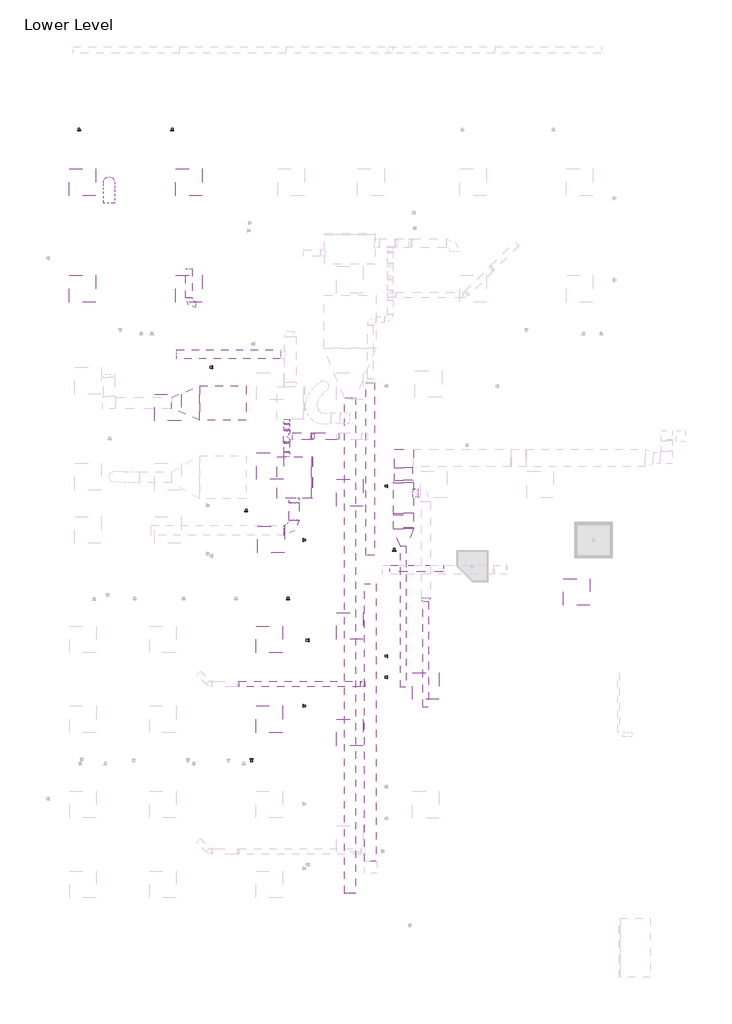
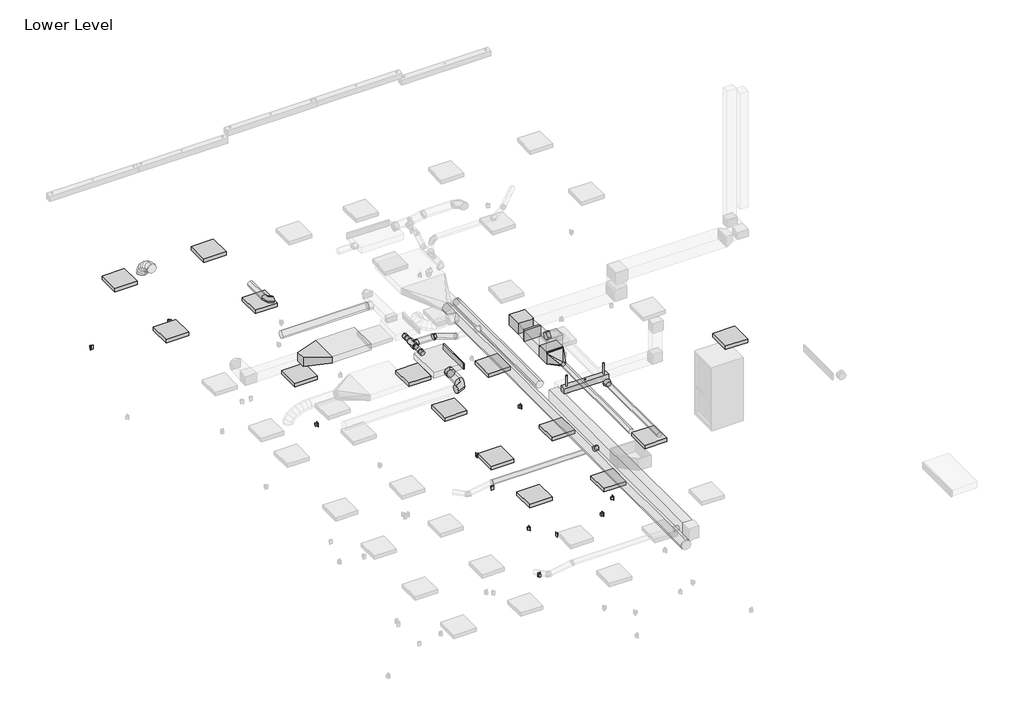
# One storey, part 2 of 4: 19 duct segments, 18 duct fittings, 15 light fixtures, 10 proxies, 5 switching devices.
"""IFC4 building model written with IfcOpenShell, lengths in millimetres."""

from ifc_helpers import new_model, si_unit, point, frame, frame_2d, origin, place, context, project, spatial, polyline, circle_curve, ellipse_curve, trimmed, segment, composite_curve, outline, extrude, transform, mapped, element, save
from ifc_brep_helpers import plane_surface, cylinder_surface, advanced_brep
from components import mechanical_equipment_142123ad, duplex_receptacle_countertop_10251bba, rectangular_elbow_mitered_standard_ae316b88, rectangular_endcap_standard_7f0f3a90, rectangular_tee_standard_c6e92247, rectangular_transition_angle_45_degree_29acac8a, rectangular_transition_angle_45_degree_acf68612, rectangular_to_round_transition_angle_45_degree_6a3e0b62, round_elbow_1_d_df495868, round_elbow_1_d_b37ad80b, round_elbow_1_d_f0624a5f, round_takeoff_standard_71c39a53, round_takeoff_standard_1127d77f, round_takeoff_standard_fb854549, round_takeoff_standard_7fe2b2d5, round_tee_standard_f7545f24, round_transition_angle_45_degree_f573c4f8, round_transition_angle_45_degree_d7d10bec, suspended_fluorescent_strip_non_hosted_strip_light_1x4_120v_4ea4ccb3, troffer_corner_insert_2x2_3lamp_e67c7f8f

model = new_model("IFC4")

# Units and contexts
model_context = context("Model", 3, world=origin())
ifc_project = project(units=[si_unit("LENGTHUNIT", "METRE", prefix="MILLI")], contexts=[model_context])

# Site, building, storey
site = spatial("IfcSite", under=ifc_project)
building = spatial("IfcBuilding", under=site)
storey = spatial("IfcBuildingStorey", under=building, Name="Lower Level", Elevation=29972.0)

# Proxies
placement = place(None, origin())
mechanical_equipment_shape = mechanical_equipment_142123ad(model_context)
element("IfcBuildingElementProxy", 1, Name="DOAS Supply to Return Connection : DOAS Supply to Return Duct Connection", ObjectType="DOAS Supply to Return Connection : DOAS Supply to Return Duct Connection", at=placement, inside=storey, context=model_context, shape_type="MappedRepresentation", body=[
    mapped(mechanical_equipment_shape, transform((-15051.4068388, 7766.5645797, 33121.6), x_axis=(0.0, -1.0000000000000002, 0.0), y_axis=(1.0000000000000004, 0.0, 0.0), z_axis=(0.0, 0.0, 1.0000000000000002))),
])
element("IfcBuildingElementProxy", 2, Name="DOAS Supply to Return Connection : DOAS Supply to Return Duct Connection", ObjectType="DOAS Supply to Return Connection : DOAS Supply to Return Duct Connection", at=placement, inside=storey, context=model_context, shape_type="MappedRepresentation", body=[
    mapped(mechanical_equipment_shape, transform((-15051.4068388, 7118.1842307, 33121.6), x_axis=(0.0, 1.0000000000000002, 0.0), y_axis=(-1.0000000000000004, 0.0, 0.0), z_axis=(0.0, 0.0, 1.0000000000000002))),
])
duplex_receptacle_countertop_shape = duplex_receptacle_countertop_10251bba(model_context)
element("IfcBuildingElementProxy", 3, Name="Duplex Receptacle : Countertop", ObjectType="Duplex Receptacle : Countertop", at=placement, inside=storey, context=model_context, shape_type="MappedRepresentation", body=[
    mapped(duplex_receptacle_countertop_shape, transform((-15857.9540331, 89.8945005, 31191.2), x_axis=(-1.0, 0.0, 0.0), y_axis=(0.0, 0.0, 1.0), z_axis=(0.0, 1.0, 0.0))),
])
element("IfcBuildingElementProxy", 4, Name="Duplex Receptacle : Countertop", ObjectType="Duplex Receptacle : Countertop", at=placement, inside=storey, context=model_context, shape_type="MappedRepresentation", body=[
    mapped(duplex_receptacle_countertop_shape, transform((-15020.6577304, 3747.4945005, 31191.2), x_axis=(1.0, 0.0, 0.0), y_axis=(0.0, 0.0, 1.0), z_axis=(0.0, -1.0, 0.0))),
])
element("IfcBuildingElementProxy", 5, Name="Duplex Receptacle : Standard", ObjectType="Duplex Receptacle : Standard", at=placement, inside=storey, context=model_context, shape_type="MappedRepresentation", body=[
    mapped(duplex_receptacle_countertop_shape, transform((-12749.8454607, 2449.6244898, 30429.2), x_axis=(0.0, 1.0, 0.0), y_axis=(0.0, 0.0, 1.0), z_axis=(1.0, 0.0, 0.0))),
])
element("IfcBuildingElementProxy", 6, Name="Duplex Receptacle : Standard", ObjectType="Duplex Receptacle : Standard", at=placement, inside=storey, context=model_context, shape_type="MappedRepresentation", body=[
    mapped(duplex_receptacle_countertop_shape, transform((-15979.1685758, 5760.4445005, 30429.2), x_axis=(1.0, 0.0, 0.0), y_axis=(0.0, 0.0, 1.0), z_axis=(0.0, -1.0, 0.0))),
])
element("IfcBuildingElementProxy", 7, Name="Duplex Receptacle : Standard", ObjectType="Duplex Receptacle : Standard", at=placement, inside=storey, context=model_context, shape_type="MappedRepresentation", body=[
    mapped(duplex_receptacle_countertop_shape, transform((-17673.0922604, 14482.1695005, 30429.2), x_axis=(1.0, 0.0, 0.0), y_axis=(0.0, 0.0, 1.0), z_axis=(0.0, -1.0, 0.0))),
])
element("IfcBuildingElementProxy", 8, Name="Duplex Receptacle : Standard", ObjectType="Duplex Receptacle : Standard", at=placement, inside=storey, context=model_context, shape_type="MappedRepresentation", body=[
    mapped(duplex_receptacle_countertop_shape, transform((-19809.9177955, 14482.1695005, 30429.2), x_axis=(1.0, 0.0, 0.0), y_axis=(0.0, 0.0, 1.0), z_axis=(0.0, -1.0, 0.0))),
])
element("IfcBuildingElementProxy", 9, Name="Duplex Receptacle : Standard", ObjectType="Duplex Receptacle : Standard", at=placement, inside=storey, context=model_context, shape_type="MappedRepresentation", body=[
    mapped(duplex_receptacle_countertop_shape, transform((-14550.0704607, 2812.7275334, 30429.2), x_axis=(0.0, 1.0, 0.0), y_axis=(0.0, 0.0, 1.0), z_axis=(1.0, 0.0, 0.0))),
])
element("IfcBuildingElementProxy", 10, Name="Duplex Receptacle : Standard", ObjectType="Duplex Receptacle : Standard", at=placement, inside=storey, context=model_context, shape_type="MappedRepresentation", body=[
    mapped(duplex_receptacle_countertop_shape, transform((-16756.6954607, 9061.6852176, 30429.2), x_axis=(0.0, 1.0, 0.0), y_axis=(0.0, 0.0, 1.0), z_axis=(1.0, 0.0, 0.0))),
])

# Duct fittings
rectangular_elbow_mitered_standard_shape = rectangular_elbow_mitered_standard_ae316b88(model_context)
element("IfcDuctFitting", 11, ObjectType="Rectangular Elbow - Mitered : Standard", at=placement, inside=storey, context=model_context, shape_type="MappedRepresentation", body=[
    mapped(rectangular_elbow_mitered_standard_shape, transform((-12379.8126806, 6984.6293332, 33121.6), x_axis=(-1.0, 0.0, 0.0), y_axis=(0.0, -1.0, 0.0), z_axis=(0.0, 0.0, 1.0))),
])
rectangular_endcap_standard_shape = rectangular_endcap_standard_7f0f3a90(model_context)
element("IfcDuctFitting", 12, ObjectType="Rectangular Endcap : Standard", at=placement, inside=storey, context=model_context, shape_type="MappedRepresentation", body=[
    mapped(rectangular_endcap_standard_shape, transform((-14487.4337032, 6541.2842307, 33121.5384965), x_axis=(1.0, 0.0, 0.0), y_axis=(0.0, 1.0, 0.0), z_axis=(0.0, 0.0, 1.0))),
])
rectangular_tee_standard_shape = rectangular_tee_standard_c6e92247(model_context)
element("IfcDuctFitting", 13, ObjectType="Rectangular Tee : Standard", at=placement, inside=storey, context=model_context, shape_type="MappedRepresentation", body=[
    mapped(rectangular_tee_standard_shape, transform((-12379.8126806, 5536.8293332, 33121.6), x_axis=(0.0, 1.0, 0.0), y_axis=(0.0, 0.0, -1.0), z_axis=(-1.0, 0.0, 0.0))),
])
rectangular_transition_angle_45_degree_shape = rectangular_transition_angle_45_degree_29acac8a(model_context)
element("IfcDuctFitting", 14, ObjectType="Rectangular Transition - Angle : 45 Degree", at=placement, inside=storey, context=model_context, shape_type="MappedRepresentation", body=[
    mapped(rectangular_transition_angle_45_degree_shape, transform((-17043.5807568, 8243.4520797, 33125.965625), x_axis=(-0.9999999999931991, 0.0, 3.6880781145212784e-06), y_axis=(0.0, -1.0000000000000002, 0.0), z_axis=(3.6880781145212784e-06, 0.0, 0.9999999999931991))),
])
rectangular_transition_angle_45_degree_2_shape = rectangular_transition_angle_45_degree_acf68612(model_context)
element("IfcDuctFitting", 15, ObjectType="Rectangular Transition - Angle : 45 Degree", at=placement, inside=storey, context=model_context, shape_type="MappedRepresentation", body=[
    mapped(rectangular_transition_angle_45_degree_2_shape, transform((-12379.8126806, 6479.8043332, 33121.6), x_axis=(0.0, -1.0, 0.0), y_axis=(1.0, 0.0, 0.0), z_axis=(0.0, 0.0, 1.0))),
])
rectangular_to_round_transition_angle_45_degree_shape = rectangular_to_round_transition_angle_45_degree_6a3e0b62(model_context)
element("IfcDuctFitting", 16, ObjectType="Rectangular to Round Transition - Angle : 45 Degree", at=placement, inside=storey, context=model_context, shape_type="MappedRepresentation", body=[
    mapped(rectangular_to_round_transition_angle_45_degree_shape, transform((-12379.8126806, 5359.0293332, 33121.6), x_axis=(0.0, -1.0, 0.0), y_axis=(0.0, 0.0, 1.0), z_axis=(-1.0, 0.0, 0.0))),
])
round_elbow_1_d_shape = round_elbow_1_d_df495868(model_context)
element("IfcDuctFitting", 17, ObjectType="Round Elbow : 1 D", at=placement, inside=storey, context=model_context, shape_type="MappedRepresentation", body=[
    mapped(round_elbow_1_d_shape, transform((-14881.1337028, 5334.9945005, 33121.6), x_axis=(1.0, 0.0, 0.0), y_axis=(0.0, 1.0, 0.0), z_axis=(0.0, 0.0, 1.0))),
])
round_elbow_1_d_2_shape = round_elbow_1_d_b37ad80b(model_context)
element("IfcDuctFitting", 18, ObjectType="Round Elbow : 1 D", at=placement, inside=storey, context=model_context, shape_type="MappedRepresentation", body=[
    mapped(round_elbow_1_d_2_shape, transform((-17291.6829607, 10498.3395797, 33324.8), x_axis=(0.0, -1.0, 0.0), y_axis=(0.9961916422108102, 0.0, -0.08719066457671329), z_axis=(0.08719066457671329, 0.0, 0.9961916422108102))),
])
round_elbow_1_d_3_shape = round_elbow_1_d_f0624a5f(model_context)
element("IfcDuctFitting", 19, ObjectType="Round Elbow : 1 D", at=placement, inside=storey, context=model_context, shape_type="MappedRepresentation", body=[
    mapped(round_elbow_1_d_3_shape, transform((-14469.5500833, 7481.5106674, 33121.6), x_axis=(1.0, 0.0, 0.0), y_axis=(0.0, 0.0, -1.0), z_axis=(0.0, 1.0, 0.0))),
])
round_takeoff_standard_shape = round_takeoff_standard_71c39a53(model_context)
element("IfcDuctFitting", 20, ObjectType="Round Takeoff : Standard", at=placement, inside=storey, context=model_context, shape_type="MappedRepresentation", body=[
    mapped(round_takeoff_standard_shape, transform((-14881.1337028, 6065.9842307, 33121.6), x_axis=(0.0, -1.0, 0.0), y_axis=(-1.0, 0.0, 0.0), z_axis=(0.0, 0.0, -1.0))),
])
round_takeoff_standard_2_shape = round_takeoff_standard_1127d77f(model_context)
element("IfcDuctFitting", 21, ObjectType="Round Takeoff : Standard", at=placement, inside=storey, context=model_context, shape_type="MappedRepresentation", body=[
    mapped(round_takeoff_standard_2_shape, transform((-12151.2126806, 6182.7195005, 33121.6), x_axis=(1.0, 0.0, 0.0), y_axis=(0.0, -1.0, 0.0), z_axis=(0.0, 0.0, -1.0))),
])
round_takeoff_standard_3_shape = round_takeoff_standard_fb854549(model_context)
element("IfcDuctFitting", 22, ObjectType="Round Takeoff : Standard", at=placement, inside=storey, context=model_context, shape_type="MappedRepresentation", body=[
    mapped(round_takeoff_standard_3_shape, transform((-15051.4068388, 7868.1645797, 33121.6), x_axis=(0.0, -1.0, 0.0), y_axis=(-1.0, 0.0, 0.0), z_axis=(0.0, 0.0, -1.0))),
])
round_takeoff_standard_4_shape = round_takeoff_standard_7fe2b2d5(model_context)
element("IfcDuctFitting", 23, ObjectType="Round Takeoff : Standard", at=placement, inside=storey, context=model_context, shape_type="MappedRepresentation", body=[
    mapped(round_takeoff_standard_4_shape, transform((-15051.4068388, 7016.5842307, 33121.6), x_axis=(0.0, 1.0, 0.0), y_axis=(1.0, 0.0, 0.0), z_axis=(0.0, 0.0, -1.0))),
])
element("IfcDuctFitting", 24, ObjectType="Round Takeoff : Standard", at=placement, inside=storey, context=model_context, shape_type="MappedRepresentation", body=[
    mapped(round_takeoff_standard_4_shape, transform((-13265.544811, 1810.3913908, 32918.4), x_axis=(-1.0, 0.0, 0.0), y_axis=(0.0, 1.0, 0.0), z_axis=(0.0, 0.0, -1.0))),
])
round_tee_standard_shape = round_tee_standard_f7545f24(model_context)
element("IfcDuctFitting", 25, ObjectType="Round Tee : Standard", at=placement, inside=storey, context=model_context, shape_type="MappedRepresentation", body=[
    mapped(round_tee_standard_shape, transform((-15051.4068388, 7481.5106674, 33121.6), x_axis=(0.0, 1.0, 0.0), y_axis=(-1.0, 0.0, 0.0), z_axis=(0.0, 0.0, 1.0))),
])
round_transition_angle_45_degree_shape = round_transition_angle_45_degree_f573c4f8(model_context)
element("IfcDuctFitting", 26, ObjectType="Round Transition - Angle : 45 Degree", at=placement, inside=storey, context=model_context, shape_type="MappedRepresentation", body=[
    mapped(round_transition_angle_45_degree_shape, transform((-15051.4068388, 7608.5106674, 33121.6), x_axis=(0.0, 1.0, 0.0), y_axis=(-1.0, 0.0, 0.0), z_axis=(0.0, 0.0, 1.0))),
])
element("IfcDuctFitting", 27, ObjectType="Round Transition - Angle : 45 Degree", at=placement, inside=storey, context=model_context, shape_type="MappedRepresentation", body=[
    mapped(round_transition_angle_45_degree_shape, transform((-15051.4068388, 7354.5106674, 33121.6), x_axis=(0.0, -1.0, 0.0), y_axis=(1.0, 0.0, 0.0), z_axis=(0.0, 0.0, 1.0))),
])
round_transition_angle_45_degree_2_shape = round_transition_angle_45_degree_d7d10bec(model_context)
element("IfcDuctFitting", 28, ObjectType="Round Transition - Angle : 45 Degree", at=placement, inside=storey, context=model_context, shape_type="MappedRepresentation", body=[
    mapped(round_transition_angle_45_degree_2_shape, transform((-11866.4513201, 3785.5010372, 33121.6), x_axis=(0.0, -1.0, 0.0), y_axis=(1.0, 0.0, 0.0), z_axis=(0.0, 0.0, 1.0))),
])

# Duct segments
element("IfcDuctSegment", 29, ObjectType="Flex - Round", at=placement, inside=storey, context=model_context, shape_type="AdvancedBrep", body=[
    advanced_brep(
    [(-19247.4829607, 12815.4520797, 33477.2), (-19120.4829607, 12815.4520797, 33350.2), (-18993.4829607, 12815.4520797, 33477.2), (-19120.4829607, 12815.4520797, 33604.2), (-19247.4829607, 12833.3470873, 33477.2), (-19120.4829607, 12822.5920667, 33350.2), (-18993.4829607, 12833.3470873, 33477.2), (-19120.4829607, 12844.102108, 33604.2), (-19247.4829607, 13294.7195005, 33073.975), (-19120.4829607, 13421.7195005, 33073.975), (-18993.4829607, 13294.7195005, 33073.975), (-19120.4829607, 13167.7195005, 33073.975), (-19247.4829607, 12923.4451197, 33461.8298314), (-19120.4829607, 12889.2212464, 33338.8334729), (-18993.4829607, 12923.4451197, 33461.8298314), (-19120.4829607, 12957.6689931, 33584.8261899), (-19247.4829607, 13032.4960357, 33419.0549049), (-19120.4829607, 12974.2697967, 33305.4734094), (-18993.4829607, 13032.4960357, 33419.0549049), (-19120.4829607, 13090.7222748, 33532.6364005), (-19247.4829607, 13133.3768797, 33353.8785896), (-19120.4829607, 13053.4146346, 33254.3401247), (-18993.4829607, 13133.3768797, 33353.8785896), (-19120.4829607, 13213.3391248, 33453.4170545), (-19247.4829607, 13216.8597038, 33271.3042543), (-19120.4829607, 13116.1392002, 33192.2981494), (-18993.4829607, 13216.8597038, 33271.3042543), (-19120.4829607, 13317.5802073, 33350.3103593), (-19247.4829607, 13273.71656, 33176.3352681), (-19120.4829607, 13155.8042904, 33126.0448661), (-18993.4829607, 13273.71656, 33176.3352681), (-19120.4829607, 13391.6288296, 33226.6256702), (-19247.4829607, 13294.7195005, 33099.5018603), (-19120.4829607, 13167.7195005, 33082.4563888), (-18993.4829607, 13294.7195005, 33099.5018603), (-19120.4829607, 13421.7195005, 33116.5473318)],
    [
        (0, 1, circle_curve(frame((-19120.4829607, 12815.4520797, 33477.2), z_axis=(0.0, -1.0, 0.0), x_axis=(-1.0, 0.0, 0.0)), 127.0)),
        (1, 2, circle_curve(frame((-19120.4829607, 12815.4520797, 33477.2), z_axis=(0.0, -1.0, 0.0), x_axis=(-1.0, 0.0, 0.0)), 127.0)),
        (2, 3, circle_curve(frame((-19120.4829607, 12815.4520797, 33477.2), z_axis=(0.0, -1.0, 0.0), x_axis=(-1.0, 0.0, 0.0)), 127.0)),
        (3, 0, circle_curve(frame((-19120.4829607, 12815.4520797, 33477.2), z_axis=(0.0, -1.0, 0.0), x_axis=(-1.0, 0.0, 0.0)), 127.0)),
        (0, 4),
        (4, 5, ellipse_curve(frame((-19120.4829607, 12833.3470873, 33477.2), z_axis=(0.0, -0.996433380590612, 0.08438316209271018), x_axis=(0.0, -0.08438316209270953, -0.996433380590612)), 127.454582, 127.0)),
        (5, 1),
        (5, 6, ellipse_curve(frame((-19120.4829607, 12833.3470873, 33477.2), z_axis=(0.0, -0.996433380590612, 0.08438316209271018), x_axis=(0.0, -0.08438316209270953, -0.996433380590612)), 127.454582, 127.0)),
        (6, 2),
        (6, 7, ellipse_curve(frame((-19120.4829607, 12833.3470873, 33477.2), z_axis=(0.0, -0.996433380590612, 0.08438316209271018), x_axis=(0.0, -0.08438316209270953, -0.996433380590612)), 127.454582, 127.0)),
        (7, 3),
        (7, 4, ellipse_curve(frame((-19120.4829607, 12833.3470873, 33477.2), z_axis=(0.0, -0.996433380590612, 0.08438316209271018), x_axis=(0.0, -0.08438316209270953, -0.996433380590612)), 127.454582, 127.0)),
        (8, 9, circle_curve(frame((-19120.4829607, 13294.7195005, 33073.975), z_axis=(0.0, 0.0, -1.0), x_axis=(-1.0, 0.0, 0.0)), 127.0)),
        (9, 10, circle_curve(frame((-19120.4829607, 13294.7195005, 33073.975), z_axis=(0.0, 0.0, -1.0), x_axis=(-1.0, 0.0, 0.0)), 127.0)),
        (10, 11, circle_curve(frame((-19120.4829607, 13294.7195005, 33073.975), z_axis=(0.0, 0.0, -1.0), x_axis=(-1.0, 0.0, 0.0)), 127.0)),
        (11, 8, circle_curve(frame((-19120.4829607, 13294.7195005, 33073.975), z_axis=(0.0, 0.0, -1.0), x_axis=(-1.0, 0.0, 0.0)), 127.0)),
        (4, 12),
        (12, 13, ellipse_curve(frame((-19120.4829607, 12923.4451197, 33461.8298314), z_axis=(0.0, -0.963400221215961, 0.2680671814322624), x_axis=(0.0, -0.2680671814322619, -0.9634002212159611)), 127.6690162, 127.0)),
        (13, 5),
        (13, 14, ellipse_curve(frame((-19120.4829607, 12923.4451197, 33461.8298314), z_axis=(0.0, -0.963400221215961, 0.2680671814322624), x_axis=(0.0, -0.2680671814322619, -0.9634002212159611)), 127.6690162, 127.0)),
        (14, 6),
        (14, 15, ellipse_curve(frame((-19120.4829607, 12923.4451197, 33461.8298314), z_axis=(0.0, -0.963400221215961, 0.2680671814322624), x_axis=(0.0, -0.2680671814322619, -0.9634002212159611)), 127.6690162, 127.0)),
        (15, 7),
        (15, 12, ellipse_curve(frame((-19120.4829607, 12923.4451197, 33461.8298314), z_axis=(0.0, -0.963400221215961, 0.2680671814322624), x_axis=(0.0, -0.2680671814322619, -0.9634002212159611)), 127.6690162, 127.0)),
        (12, 16),
        (16, 17, ellipse_curve(frame((-19120.4829607, 13032.4960357, 33419.0549049), z_axis=(0.0, -0.8898832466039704, 0.45618834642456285), x_axis=(0.0, -0.4561883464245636, -0.8898832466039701)), 127.6364017, 127.0)),
        (17, 13),
        (17, 18, ellipse_curve(frame((-19120.4829607, 13032.4960357, 33419.0549049), z_axis=(0.0, -0.8898832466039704, 0.45618834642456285), x_axis=(0.0, -0.4561883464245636, -0.8898832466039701)), 127.6364017, 127.0)),
        (18, 14),
        (18, 19, ellipse_curve(frame((-19120.4829607, 13032.4960357, 33419.0549049), z_axis=(0.0, -0.8898832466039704, 0.45618834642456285), x_axis=(0.0, -0.4561883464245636, -0.8898832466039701)), 127.6364017, 127.0)),
        (19, 15),
        (19, 16, ellipse_curve(frame((-19120.4829607, 13032.4960357, 33419.0549049), z_axis=(0.0, -0.8898832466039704, 0.45618834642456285), x_axis=(0.0, -0.4561883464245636, -0.8898832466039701)), 127.6364017, 127.0)),
        (16, 20),
        (20, 21, ellipse_curve(frame((-19120.4829607, 13133.3768797, 33353.8785896), z_axis=(0.0, -0.7796007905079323, 0.6262767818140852), x_axis=(0.0, -0.6262767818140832, -0.7796007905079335)), 127.6787634, 127.0)),
        (21, 17),
        (21, 22, ellipse_curve(frame((-19120.4829607, 13133.3768797, 33353.8785896), z_axis=(0.0, -0.7796007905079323, 0.6262767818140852), x_axis=(0.0, -0.6262767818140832, -0.7796007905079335)), 127.6787634, 127.0)),
        (22, 18),
        (22, 23, ellipse_curve(frame((-19120.4829607, 13133.3768797, 33353.8785896), z_axis=(0.0, -0.7796007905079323, 0.6262767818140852), x_axis=(0.0, -0.6262767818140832, -0.7796007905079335)), 127.6787634, 127.0)),
        (23, 19),
        (23, 20, ellipse_curve(frame((-19120.4829607, 13133.3768797, 33353.8785896), z_axis=(0.0, -0.7796007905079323, 0.6262767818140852), x_axis=(0.0, -0.6262767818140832, -0.7796007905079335)), 127.6787634, 127.0)),
        (20, 24),
        (24, 25, ellipse_curve(frame((-19120.4829607, 13216.8597038, 33271.3042543), z_axis=(0.0, -0.6171865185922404, 0.7868168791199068), x_axis=(0.0, -0.786816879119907, -0.6171865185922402)), 128.0100951, 127.0)),
        (25, 21),
        (25, 26, ellipse_curve(frame((-19120.4829607, 13216.8597038, 33271.3042543), z_axis=(0.0, -0.6171865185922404, 0.7868168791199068), x_axis=(0.0, -0.786816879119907, -0.6171865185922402)), 128.0100951, 127.0)),
        (26, 22),
        (26, 27, ellipse_curve(frame((-19120.4829607, 13216.8597038, 33271.3042543), z_axis=(0.0, -0.6171865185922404, 0.7868168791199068), x_axis=(0.0, -0.786816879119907, -0.6171865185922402)), 128.0100951, 127.0)),
        (27, 23),
        (27, 24, ellipse_curve(frame((-19120.4829607, 13216.8597038, 33271.3042543), z_axis=(0.0, -0.6171865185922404, 0.7868168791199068), x_axis=(0.0, -0.786816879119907, -0.6171865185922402)), 128.0100951, 127.0)),
        (24, 28),
        (28, 29, ellipse_curve(frame((-19120.4829607, 13273.71656, 33176.3352681), z_axis=(0.0, -0.39231439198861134, 0.9198311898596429), x_axis=(0.0, -0.9198311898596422, -0.3923143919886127)), 128.1890317, 127.0)),
        (29, 25),
        (29, 30, ellipse_curve(frame((-19120.4829607, 13273.71656, 33176.3352681), z_axis=(0.0, -0.39231439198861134, 0.9198311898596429), x_axis=(0.0, -0.9198311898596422, -0.3923143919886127)), 128.1890317, 127.0)),
        (30, 26),
        (30, 31, ellipse_curve(frame((-19120.4829607, 13273.71656, 33176.3352681), z_axis=(0.0, -0.39231439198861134, 0.9198311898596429), x_axis=(0.0, -0.9198311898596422, -0.3923143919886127)), 128.1890317, 127.0)),
        (31, 27),
        (31, 28, ellipse_curve(frame((-19120.4829607, 13273.71656, 33176.3352681), z_axis=(0.0, -0.39231439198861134, 0.9198311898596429), x_axis=(0.0, -0.9198311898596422, -0.3923143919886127)), 128.1890317, 127.0)),
        (28, 32),
        (32, 33, ellipse_curve(frame((-19120.4829607, 13294.7195005, 33099.5018603), z_axis=(0.0, -0.13302351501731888, 0.99111288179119), x_axis=(0.0, -0.9911128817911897, -0.13302351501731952)), 128.1387845, 127.0)),
        (33, 29),
        (33, 34, ellipse_curve(frame((-19120.4829607, 13294.7195005, 33099.5018603), z_axis=(0.0, -0.13302351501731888, 0.99111288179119), x_axis=(0.0, -0.9911128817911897, -0.13302351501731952)), 128.1387845, 127.0)),
        (34, 30),
        (34, 35, ellipse_curve(frame((-19120.4829607, 13294.7195005, 33099.5018603), z_axis=(0.0, -0.13302351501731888, 0.99111288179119), x_axis=(0.0, -0.9911128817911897, -0.13302351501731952)), 128.1387845, 127.0)),
        (35, 31),
        (35, 32, ellipse_curve(frame((-19120.4829607, 13294.7195005, 33099.5018603), z_axis=(0.0, -0.13302351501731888, 0.99111288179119), x_axis=(0.0, -0.9911128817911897, -0.13302351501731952)), 128.1387845, 127.0)),
        (32, 8),
        (11, 33),
        (10, 34),
        (9, 35),
    ],
    [
        plane_surface(frame((-19247.4829607, 12815.4520797, 33477.2), z_axis=(0.0, -1.0, 0.0), x_axis=(0.0, 0.0, 1.0))),
        cylinder_surface(frame((-19120.4829607, 12815.4520797, 33477.2), z_axis=(0.0, -1.0, 0.0), x_axis=(-1.0, 0.0, 0.0)), 127.0),
        plane_surface(frame((-19120.4829607, 13167.7195005, 33073.975), z_axis=(0.0, 0.0, -1.0), x_axis=(-1.0, 0.0, 0.0))),
        cylinder_surface(frame((-19120.4829607, 12833.3470873, 33477.2), z_axis=(0.0, -0.9857589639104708, 0.16816439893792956), x_axis=(-1.0, 0.0, 0.0)), 127.0),
        cylinder_surface(frame((-19120.4829607, 12923.4451197, 33461.8298314), z_axis=(0.0, -0.9309445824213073, 0.3651604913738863), x_axis=(-1.0, 0.0, 0.0)), 127.0),
        cylinder_surface(frame((-19120.4829607, 13032.4960357, 33419.0549049), z_axis=(0.0, -0.83994790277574, 0.542667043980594), x_axis=(-1.0, 0.0, 0.0)), 127.0),
        cylinder_surface(frame((-19120.4829607, 13133.3768797, 33353.8785896), z_axis=(0.0, -0.7109646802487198, 0.7032277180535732), x_axis=(-1.0, 0.0, 0.0)), 127.0),
        cylinder_surface(frame((-19120.4829607, 13216.8597038, 33271.3042543), z_axis=(0.0, -0.5136682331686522, 0.8579888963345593), x_axis=(-1.0, 0.0, 0.0)), 127.0),
        cylinder_surface(frame((-19120.4829607, 13273.71656, 33176.3352681), z_axis=(0.0, -0.2636826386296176, 0.9646094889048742), x_axis=(-1.0, 0.0, 0.0)), 127.0),
        cylinder_surface(frame((-19120.4829607, 13294.7195005, 33099.5018603), z_axis=(0.0, 0.0, 1.0), x_axis=(-1.0, 0.0, 0.0)), 127.0),
    ],
    [
        (0, [[1, 2, 3, 4]]),
        (1, [[-1, 5, 6, 7]]),
        (1, [[-2, -7, 8, 9]]),
        (1, [[-3, -9, 10, 11]]),
        (1, [[-4, -11, 12, -5]]),
        (2, [[13, 14, 15, 16]]),
        (3, [[-6, 17, 18, 19]]),
        (3, [[-8, -19, 20, 21]]),
        (3, [[-10, -21, 22, 23]]),
        (3, [[-12, -23, 24, -17]]),
        (4, [[-18, 25, 26, 27]]),
        (4, [[-20, -27, 28, 29]]),
        (4, [[-22, -29, 30, 31]]),
        (4, [[-24, -31, 32, -25]]),
        (5, [[-26, 33, 34, 35]]),
        (5, [[-28, -35, 36, 37]]),
        (5, [[-30, -37, 38, 39]]),
        (5, [[-32, -39, 40, -33]]),
        (6, [[-34, 41, 42, 43]]),
        (6, [[-36, -43, 44, 45]]),
        (6, [[-38, -45, 46, 47]]),
        (6, [[-40, -47, 48, -41]]),
        (7, [[-42, 49, 50, 51]]),
        (7, [[-44, -51, 52, 53]]),
        (7, [[-46, -53, 54, 55]]),
        (7, [[-48, -55, 56, -49]]),
        (8, [[-50, 57, 58, 59]]),
        (8, [[-52, -59, 60, 61]]),
        (8, [[-54, -61, 62, 63]]),
        (8, [[-56, -63, 64, -57]]),
        (9, [[-58, 65, -16, 66]]),
        (9, [[-60, -66, -15, 67]]),
        (9, [[-62, -67, -14, 68]]),
        (9, [[-64, -68, -13, -65]]),
    ],
),
])
element("IfcDuctSegment", 30, ObjectType="Mitered Elbows / Taps", at=placement, inside=storey, context=model_context, shape_type="SweptSolid", body=[
    extrude(outline(polyline([(0.0, -790.575), (0.0, 0.0), (1059.15555, 0.0), (1059.15555, -790.575), (0.0, -790.575)])), frame((-17043.5783571, 8638.7395797, 33041.465625), z_axis=(-2.8398213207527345e-05, 0.0, 0.9999999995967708), x_axis=(0.9999999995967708, 0.0, 2.8398213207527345e-05)), (0.0, 0.0, 1.0), 169.0),
])
element("IfcDuctSegment", 31, ObjectType="Mitered Elbows / Taps", at=placement, inside=storey, context=model_context, shape_type="SweptSolid", body=[
    extrude(outline(polyline([(-14487.4337032, 7016.5842307), (-14487.4337032, 6065.9842307), (-15274.8337025, 6065.9842307), (-15274.8337025, 7016.5842307), (-14487.4337032, 7016.5842307)])), frame((0.0, 0.0, 33041.6177934), z_axis=(0.0, 0.0, 1.0), x_axis=(1.0, 0.0, 0.0)), (0.0, 0.0, 1.0), 159.8414063),
])
element("IfcDuctSegment", 32, ObjectType="Mitered Elbows / Taps", at=placement, inside=storey, context=model_context, shape_type="SweptSolid", body=[
    extrude(outline(polyline([(-12176.6126806, 6479.8043332), (-12583.0126806, 6479.8043332), (-12583.0126806, 6756.0293332), (-12176.6126806, 6756.0293332), (-12176.6126806, 6479.8043332)])), frame((0.0, 0.0, 32969.2), z_axis=(0.0, 0.0, 1.0), x_axis=(1.0, 0.0, 0.0)), (0.0, 0.0, 1.0), 304.8),
])
element("IfcDuctSegment", 33, ObjectType="Mitered Elbows / Taps", at=placement, inside=storey, context=model_context, shape_type="SweptSolid", body=[
    extrude(outline(polyline([(-12151.2126806, 5714.6293332), (-12608.4126806, 5714.6293332), (-12608.4126806, 6418.4833087), (-12151.2126806, 6418.4833087), (-12151.2126806, 5714.6293332)])), frame((0.0, 0.0, 32969.2), z_axis=(0.0, 0.0, 1.0), x_axis=(1.0, 0.0, 0.0)), (0.0, 0.0, 1.0), 304.8),
])
element("IfcDuctSegment", 34, ObjectType="Mitered Elbows / Taps", at=placement, inside=storey, context=model_context, shape_type="SweptSolid", body=[
    extrude(outline(polyline([(-13265.544811, 4099.9195005), (-13011.544811, 4099.9195005), (-13011.544811, -2246.9054995), (-13265.544811, -2246.9054995), (-13265.544811, 4099.9195005)])), frame((0.0, 0.0, 32842.2), z_axis=(0.0, 0.0, 1.0), x_axis=(1.0, 0.0, 0.0)), (0.0, 0.0, 1.0), 355.6),
])
element("IfcDuctSegment", 35, ObjectType="Mitered Elbows / Taps", at=placement, inside=storey, context=model_context, shape_type="SweptSolid", body=[
    extrude(outline(polyline([(-12151.2126806, 5384.4293332), (-12608.4126806, 5384.4293332), (-12608.4126806, 5689.2293332), (-12151.2126806, 5689.2293332), (-12151.2126806, 5384.4293332)])), frame((0.0, 0.0, 33299.4), z_axis=(0.0, 0.0, 1.0), x_axis=(1.0, 0.0, 0.0)), (0.0, 0.0, 1.0), 330.2),
])
element("IfcDuctSegment", 36, ObjectType="Taps / Short Radius", at=placement, inside=storey, context=model_context, shape_type="SweptSolid", body=[
    extrude(outline(composite_curve([segment(trimmed(circle_curve(frame_2d((33121.6, -14881.1337028)), 114.3), [point((33121.6, -14995.4337028))], [point((33007.3, -14881.1337028))], False, "CARTESIAN"), True, "CONTINUOUS"), segment(trimmed(circle_curve(frame_2d((33121.6, -14881.1337028)), 114.3), [point((33007.3, -14881.1337028))], [point((33121.6, -14766.8337028))], False, "CARTESIAN"), True, "CONTINUOUS"), segment(trimmed(circle_curve(frame_2d((33121.6, -14881.1337028)), 114.3), [point((33121.6, -14766.8337028))], [point((33235.9, -14881.1337028))], False, "CARTESIAN"), True, "CONTINUOUS"), segment(trimmed(circle_curve(frame_2d((33121.6, -14881.1337028)), 114.3), [point((33235.9, -14881.1337028))], [point((33121.6, -14995.4337028))], False, "CARTESIAN"), True, "CONTINUOUS")], self_intersect=False)), frame((0.0, 5563.5945005, 0.0), z_axis=(0.0, 1.0, 0.0), x_axis=(0.0, 0.0, 1.0)), (0.0, 0.0, 1.0), 400.7897302),
])
element("IfcDuctSegment", 37, ObjectType="Taps / Short Radius", at=placement, inside=storey, context=model_context, shape_type="SweptSolid", body=[
    extrude(outline(composite_curve([segment(trimmed(circle_curve(frame_2d((32918.4, -13138.544811)), 101.6), [point((32918.4, -13240.144811))], [point((32816.8, -13138.544811))], False, "CARTESIAN"), True, "CONTINUOUS"), segment(trimmed(circle_curve(frame_2d((32918.4, -13138.544811)), 101.6), [point((32816.8, -13138.544811))], [point((32918.4, -13036.944811))], False, "CARTESIAN"), True, "CONTINUOUS"), segment(trimmed(circle_curve(frame_2d((32918.4, -13138.544811)), 101.6), [point((32918.4, -13036.944811))], [point((33020.0, -13138.544811))], False, "CARTESIAN"), True, "CONTINUOUS"), segment(trimmed(circle_curve(frame_2d((32918.4, -13138.544811)), 101.6), [point((33020.0, -13138.544811))], [point((32918.4, -13240.144811))], False, "CARTESIAN"), True, "CONTINUOUS")], self_intersect=False)), frame((0.0, 4760.3195005, 0.0), z_axis=(0.0, 1.0, 0.0), x_axis=(0.0, 0.0, 1.0)), (0.0, 0.0, 1.0), 3949.3928002),
])
element("IfcDuctSegment", 38, ObjectType="Taps / Short Radius", at=placement, inside=storey, context=model_context, shape_type="SweptSolid", body=[
    extrude(outline(composite_curve([segment(trimmed(circle_curve(frame_2d((9360.8945005, 33121.6)), 101.6), [point((9259.2945005, 33121.6))], [point((9360.8945005, 33223.2))], False, "CARTESIAN"), True, "CONTINUOUS"), segment(trimmed(circle_curve(frame_2d((9360.8945005, 33121.6)), 101.6), [point((9360.8945005, 33223.2))], [point((9462.4945005, 33121.6))], False, "CARTESIAN"), True, "CONTINUOUS"), segment(trimmed(circle_curve(frame_2d((9360.8945005, 33121.6)), 101.6), [point((9462.4945005, 33121.6))], [point((9360.8945005, 33020.0))], False, "CARTESIAN"), True, "CONTINUOUS"), segment(trimmed(circle_curve(frame_2d((9360.8945005, 33121.6)), 101.6), [point((9360.8945005, 33020.0))], [point((9259.2945005, 33121.6))], False, "CARTESIAN"), True, "CONTINUOUS")], self_intersect=False)), frame((-17572.6704607, 0.0, 0.0), z_axis=(1.0, 0.0, 0.0), x_axis=(0.0, 1.0, 0.0)), (0.0, 0.0, 1.0), 2374.0367578),
])
element("IfcDuctSegment", 39, ObjectType="Taps / Short Radius", at=placement, inside=storey, context=model_context, shape_type="SweptSolid", body=[
    extrude(outline(composite_curve([segment(trimmed(circle_curve(frame_2d((33324.8, -17291.6829607)), 76.2), [point((33324.8, -17215.4829607))], [point((33401.0, -17291.6829607))], False, "CARTESIAN"), True, "CONTINUOUS"), segment(trimmed(circle_curve(frame_2d((33324.8, -17291.6829607)), 76.2), [point((33401.0, -17291.6829607))], [point((33324.8, -17367.8829607))], False, "CARTESIAN"), True, "CONTINUOUS"), segment(trimmed(circle_curve(frame_2d((33324.8, -17291.6829607)), 76.2), [point((33324.8, -17367.8829607))], [point((33248.6, -17291.6829607))], False, "CARTESIAN"), True, "CONTINUOUS"), segment(trimmed(circle_curve(frame_2d((33324.8, -17291.6829607)), 76.2), [point((33248.6, -17291.6829607))], [point((33324.8, -17215.4829607))], False, "CARTESIAN"), True, "CONTINUOUS")], self_intersect=False)), frame((0.0, 10650.7395797, 0.0), z_axis=(0.0, 1.0, 0.0), x_axis=(0.0, 0.0, 1.0)), (0.0, 0.0, 1.0), 662.7799208),
])
element("IfcDuctSegment", 40, ObjectType="Taps / Short Radius", at=placement, inside=storey, context=model_context, shape_type="SweptSolid", body=[
    extrude(outline(composite_curve([segment(trimmed(circle_curve(frame_2d((33121.6, -15051.4068388)), 63.5), [point((33121.6, -14987.9068388))], [point((33185.1, -15051.4068388))], False, "CARTESIAN"), True, "CONTINUOUS"), segment(trimmed(circle_curve(frame_2d((33121.6, -15051.4068388)), 63.5), [point((33185.1, -15051.4068388))], [point((33121.6, -15114.9068388))], False, "CARTESIAN"), True, "CONTINUOUS"), segment(trimmed(circle_curve(frame_2d((33121.6, -15051.4068388)), 63.5), [point((33121.6, -15114.9068388))], [point((33058.1, -15051.4068388))], False, "CARTESIAN"), True, "CONTINUOUS"), segment(trimmed(circle_curve(frame_2d((33121.6, -15051.4068388)), 63.5), [point((33058.1, -15051.4068388))], [point((33121.6, -14987.9068388))], False, "CARTESIAN"), True, "CONTINUOUS")], self_intersect=False)), frame((0.0, 7639.1711796, 0.0), z_axis=(0.0, 1.0, 0.0), x_axis=(0.0, 0.0, 1.0)), (0.0, 0.0, 1.0), 114.6934001),
])
element("IfcDuctSegment", 41, ObjectType="Taps / Short Radius", at=placement, inside=storey, context=model_context, shape_type="SweptSolid", body=[
    extrude(outline(composite_curve([segment(trimmed(circle_curve(frame_2d((33121.6, -15051.4068388)), 63.5), [point((33121.6, -15114.9068388))], [point((33058.1, -15051.4068388))], False, "CARTESIAN"), True, "CONTINUOUS"), segment(trimmed(circle_curve(frame_2d((33121.6, -15051.4068388)), 63.5), [point((33058.1, -15051.4068388))], [point((33121.6, -14987.9068388))], False, "CARTESIAN"), True, "CONTINUOUS"), segment(trimmed(circle_curve(frame_2d((33121.6, -15051.4068388)), 63.5), [point((33121.6, -14987.9068388))], [point((33185.1, -15051.4068388))], False, "CARTESIAN"), True, "CONTINUOUS"), segment(trimmed(circle_curve(frame_2d((33121.6, -15051.4068388)), 63.5), [point((33185.1, -15051.4068388))], [point((33121.6, -15114.9068388))], False, "CARTESIAN"), True, "CONTINUOUS")], self_intersect=False)), frame((0.0, 7130.8842307, 0.0), z_axis=(0.0, 1.0, 0.0), x_axis=(0.0, 0.0, 1.0)), (0.0, 0.0, 1.0), 192.9659244),
])
element("IfcDuctSegment", 42, ObjectType="Taps / Short Radius", at=placement, inside=storey, context=model_context, shape_type="SweptSolid", body=[
    extrude(outline(composite_curve([segment(trimmed(circle_curve(frame_2d((7481.5106674, 33121.6)), 76.2), [point((7405.3106674, 33121.6))], [point((7481.5106674, 33197.8))], False, "CARTESIAN"), True, "CONTINUOUS"), segment(trimmed(circle_curve(frame_2d((7481.5106674, 33121.6)), 76.2), [point((7481.5106674, 33197.8))], [point((7557.7106674, 33121.6))], False, "CARTESIAN"), True, "CONTINUOUS"), segment(trimmed(circle_curve(frame_2d((7481.5106674, 33121.6)), 76.2), [point((7557.7106674, 33121.6))], [point((7481.5106674, 33045.4))], False, "CARTESIAN"), True, "CONTINUOUS"), segment(trimmed(circle_curve(frame_2d((7481.5106674, 33121.6)), 76.2), [point((7481.5106674, 33045.4))], [point((7405.3106674, 33121.6))], False, "CARTESIAN"), True, "CONTINUOUS")], self_intersect=False)), frame((-14924.4068388, 0.0, 0.0), z_axis=(1.0, 0.0, 0.0), x_axis=(0.0, 1.0, 0.0)), (0.0, 0.0, 1.0), 430.2046654),
])
element("IfcDuctSegment", 43, ObjectType="Taps / Short Radius", at=placement, inside=storey, context=model_context, shape_type="SweptSolid", body=[
    extrude(outline(composite_curve([segment(trimmed(circle_curve(frame_2d((0.0, -76.2)), 76.2), [point((0.0, -152.4))], [point((-76.1999999, -76.2))], False, "CARTESIAN"), True, "CONTINUOUS"), segment(trimmed(circle_curve(frame_2d((0.0, -76.2)), 76.2), [point((-76.1999999, -76.2))], [point((0.0, 0.0))], False, "CARTESIAN"), True, "CONTINUOUS"), segment(trimmed(circle_curve(frame_2d((0.0, -76.2)), 76.2), [point((0.0, 0.0))], [point((76.2, -76.2))], False, "CARTESIAN"), True, "CONTINUOUS"), segment(trimmed(circle_curve(frame_2d((0.0, -76.2)), 76.2), [point((76.2, -76.2))], [point((0.0, -152.4))], False, "CARTESIAN"), True, "CONTINUOUS")], self_intersect=False)), frame((-13881.2852918, 7557.7106674, 32926.1720376), z_axis=(-0.9490023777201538, 0.0, 0.3152689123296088), x_axis=(0.3152689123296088, 0.0, 0.9490023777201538)), (0.0, 0.0, 1.0), 595.2249568),
])
element("IfcDuctSegment", 44, ObjectType="Taps / Short Radius", at=placement, inside=storey, context=model_context, shape_type="SweptSolid", body=[
    extrude(outline(composite_curve([segment(trimmed(circle_curve(frame_2d((33121.6, -11866.4513201)), 63.5), [point((33121.6, -11802.9513201))], [point((33185.1, -11866.4513201))], False, "CARTESIAN"), True, "CONTINUOUS"), segment(trimmed(circle_curve(frame_2d((33121.6, -11866.4513201)), 63.5), [point((33185.1, -11866.4513201))], [point((33121.6, -11929.9513201))], False, "CARTESIAN"), True, "CONTINUOUS"), segment(trimmed(circle_curve(frame_2d((33121.6, -11866.4513201)), 63.5), [point((33121.6, -11929.9513201))], [point((33058.1, -11866.4513201))], False, "CARTESIAN"), True, "CONTINUOUS"), segment(trimmed(circle_curve(frame_2d((33121.6, -11866.4513201)), 63.5), [point((33058.1, -11866.4513201))], [point((33121.6, -11802.9513201))], False, "CARTESIAN"), True, "CONTINUOUS")], self_intersect=False)), frame((0.0, 1280.5195005, 0.0), z_axis=(0.0, 1.0, 0.0), x_axis=(0.0, 0.0, 1.0)), (0.0, 0.0, 1.0), 2413.0),
])
element("IfcDuctSegment", 45, ObjectType="Taps / Short Radius", at=placement, inside=storey, context=model_context, shape_type="SweptSolid", body=[
    extrude(outline(composite_curve([segment(trimmed(circle_curve(frame_2d((1810.3913908, 32918.4)), 63.5), [point((1746.8913908, 32918.4))], [point((1810.3913908, 32981.9))], False, "CARTESIAN"), True, "CONTINUOUS"), segment(trimmed(circle_curve(frame_2d((1810.3913908, 32918.4)), 63.5), [point((1810.3913908, 32981.9))], [point((1873.8913908, 32918.4))], False, "CARTESIAN"), True, "CONTINUOUS"), segment(trimmed(circle_curve(frame_2d((1810.3913908, 32918.4)), 63.5), [point((1873.8913908, 32918.4))], [point((1810.3913908, 32854.9))], False, "CARTESIAN"), True, "CONTINUOUS"), segment(trimmed(circle_curve(frame_2d((1810.3913908, 32918.4)), 63.5), [point((1810.3913908, 32854.9))], [point((1746.8913908, 32918.4))], False, "CARTESIAN"), True, "CONTINUOUS")], self_intersect=False)), frame((-16147.8899229, 0.0, 0.0), z_axis=(1.0, 0.0, 0.0), x_axis=(0.0, 1.0, 0.0)), (0.0, 0.0, 1.0), 2780.7451119),
])
element("IfcDuctSegment", 46, ObjectType="Taps / Short Radius", at=placement, inside=storey, context=model_context, shape_type="SweptSolid", body=[
    extrude(outline(composite_curve([segment(trimmed(circle_curve(frame_2d((0.0, 127.0)), 127.0), [point((0.0, 0.0))], [point((-127.0, 127.0))], False, "CARTESIAN"), True, "CONTINUOUS"), segment(trimmed(circle_curve(frame_2d((0.0, 127.0)), 127.0), [point((-127.0, 127.0))], [point((0.0, 254.0))], False, "CARTESIAN"), True, "CONTINUOUS"), segment(trimmed(circle_curve(frame_2d((0.0, 127.0)), 127.0), [point((0.0, 254.0))], [point((127.0, 127.0))], False, "CARTESIAN"), True, "CONTINUOUS"), segment(trimmed(circle_curve(frame_2d((0.0, 127.0)), 127.0), [point((127.0, 127.0))], [point((0.0, 0.0))], False, "CARTESIAN"), True, "CONTINUOUS")], self_intersect=False)), frame((-13732.5079607, 8366.6321196, 33125.8344606), z_axis=(0.0, -0.9999999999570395, 9.26936701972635e-06), x_axis=(0.0, -9.26936701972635e-06, -0.9999999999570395)), (0.0, 0.0, 1.0), 11340.8237892),
])
element("IfcDuctSegment", 47, ObjectType="Taps / Short Radius", at=placement, inside=storey, context=model_context, shape_type="SweptSolid", body=[
    extrude(outline(composite_curve([segment(trimmed(circle_curve(frame_2d((33121.6, -12379.8126806)), 63.5), [point((33185.1, -12379.8126806))], [point((33121.6, -12443.3126806))], False, "CARTESIAN"), True, "CONTINUOUS"), segment(trimmed(circle_curve(frame_2d((33121.6, -12379.8126806)), 63.5), [point((33121.6, -12443.3126806))], [point((33058.1, -12379.8126806))], False, "CARTESIAN"), True, "CONTINUOUS"), segment(trimmed(circle_curve(frame_2d((33121.6, -12379.8126806)), 63.5), [point((33058.1, -12379.8126806))], [point((33121.6, -12316.3126806))], False, "CARTESIAN"), True, "CONTINUOUS"), segment(trimmed(circle_curve(frame_2d((33121.6, -12379.8126806)), 63.5), [point((33121.6, -12316.3126806))], [point((33185.1, -12379.8126806))], False, "CARTESIAN"), True, "CONTINUOUS")], self_intersect=False)), frame((0.0, 1740.8945005, 0.0), z_axis=(0.0, 1.0, 0.0), x_axis=(0.0, 0.0, 1.0)), (0.0, 0.0, 1.0), 3219.5481735),
])

# Light fixtures
suspended_fluorescent_strip_non_hosted_strip_light_1x4_120v_shape = suspended_fluorescent_strip_non_hosted_strip_light_1x4_120v_4ea4ccb3(model_context)
element("IfcLightFixture", 48, ObjectType="Suspended Fluorescent Strip - Non-Hosted : Strip Light 1x4 - 120V Normal", at=placement, inside=storey, context=model_context, shape_type="MappedRepresentation", body=[
    mapped(suspended_fluorescent_strip_non_hosted_strip_light_1x4_120v_shape, transform((-12076.7454607, 4452.3445005, 32715.2), x_axis=(1.0, 0.0, 0.0), y_axis=(0.0, 1.0, 0.0), z_axis=(0.0, 0.0, 1.0))),
])
troffer_corner_insert_2x2_3lamp_shape = troffer_corner_insert_2x2_3lamp_e67c7f8f(model_context)
element("IfcLightFixture", 49, ObjectType="Troffer Corner Insert : 2x2 3Lamp", at=placement, inside=storey, context=model_context, shape_type="MappedRepresentation", body=[
    mapped(troffer_corner_insert_2x2_3lamp_shape, transform((-8409.6204607, 3918.9445005, 30632.4), x_axis=(1.0, 0.0, 0.0), y_axis=(0.0, 1.0, 0.0), z_axis=(0.0, 0.0, 1.0))),
])
element("IfcLightFixture", 50, ObjectType="Troffer Corner Insert : 2x2 3Lamp", at=placement, inside=storey, context=model_context, shape_type="MappedRepresentation", body=[
    mapped(troffer_corner_insert_2x2_3lamp_shape, transform((-11866.4513201, 1763.1195005, 30276.8), x_axis=(1.0, 0.0, 0.0), y_axis=(0.0, 1.0, 0.0), z_axis=(0.0, 0.0, 1.0))),
])
element("IfcLightFixture", 51, ObjectType="Troffer Corner Insert : 2x2 3Lamp", at=placement, inside=storey, context=model_context, shape_type="MappedRepresentation", body=[
    mapped(troffer_corner_insert_2x2_3lamp_shape, transform((-13605.5079607, 6187.4820005, 30276.8), x_axis=(1.0, 0.0, 0.0), y_axis=(0.0, 1.0, 0.0), z_axis=(0.0, 0.0, 1.0))),
])
element("IfcLightFixture", 52, ObjectType="Troffer Corner Insert : 2x2 3Lamp", at=placement, inside=storey, context=model_context, shape_type="MappedRepresentation", body=[
    mapped(troffer_corner_insert_2x2_3lamp_shape, transform((-13605.5079607, 3139.4820005, 30276.8), x_axis=(1.0, 0.0, 0.0), y_axis=(0.0, 1.0, 0.0), z_axis=(0.0, 0.0, 1.0))),
])
element("IfcLightFixture", 53, ObjectType="Troffer Corner Insert : 2x2 3Lamp", at=placement, inside=storey, context=model_context, shape_type="MappedRepresentation", body=[
    mapped(troffer_corner_insert_2x2_3lamp_shape, transform((-13605.5079607, 701.0820005, 30276.8), x_axis=(1.0, 0.0, 0.0), y_axis=(0.0, 1.0, 0.0), z_axis=(0.0, 0.0, 1.0))),
])
element("IfcLightFixture", 54, ObjectType="Troffer Corner Insert : 2x2 3Lamp", at=placement, inside=storey, context=model_context, shape_type="MappedRepresentation", body=[
    mapped(troffer_corner_insert_2x2_3lamp_shape, transform((-15453.3579607, 1004.2945005, 30276.8), x_axis=(1.0, 0.0, 0.0), y_axis=(0.0, 1.0, 0.0), z_axis=(0.0, 0.0, 1.0))),
])
element("IfcLightFixture", 55, ObjectType="Troffer Corner Insert : 2x2 3Lamp", at=placement, inside=storey, context=model_context, shape_type="MappedRepresentation", body=[
    mapped(troffer_corner_insert_2x2_3lamp_shape, transform((-15453.3579607, 2833.0945005, 30276.8), x_axis=(1.0, 0.0, 0.0), y_axis=(0.0, 1.0, 0.0), z_axis=(0.0, 0.0, 1.0))),
])
element("IfcLightFixture", 56, ObjectType="Troffer Corner Insert : 2x2 3Lamp", at=placement, inside=storey, context=model_context, shape_type="MappedRepresentation", body=[
    mapped(troffer_corner_insert_2x2_3lamp_shape, transform((-15434.3079607, 6797.0820005, 30276.8), x_axis=(1.0, 0.0, 0.0), y_axis=(0.0, 1.0, 0.0), z_axis=(0.0, 0.0, 1.0))),
])
element("IfcLightFixture", 57, ObjectType="Troffer Corner Insert : 2x2 3Lamp", at=placement, inside=storey, context=model_context, shape_type="MappedRepresentation", body=[
    mapped(troffer_corner_insert_2x2_3lamp_shape, transform((-17775.8704607, 8141.6945005, 30276.8), x_axis=(1.0, 0.0, 0.0), y_axis=(0.0, 1.0, 0.0), z_axis=(0.0, 0.0, 1.0))),
])
element("IfcLightFixture", 58, ObjectType="Troffer Corner Insert : 2x2 3Lamp", at=placement, inside=storey, context=model_context, shape_type="MappedRepresentation", body=[
    mapped(troffer_corner_insert_2x2_3lamp_shape, transform((-19730.0829607, 10856.3195005, 30581.6), x_axis=(1.0, 0.0, 0.0), y_axis=(0.0, 1.0, 0.0), z_axis=(0.0, 0.0, 1.0))),
])
element("IfcLightFixture", 59, ObjectType="Troffer Corner Insert : 2x2 3Lamp", at=placement, inside=storey, context=model_context, shape_type="MappedRepresentation", body=[
    mapped(troffer_corner_insert_2x2_3lamp_shape, transform((-19730.0829607, 13294.7195005, 30581.6), x_axis=(1.0, 0.0, 0.0), y_axis=(0.0, 1.0, 0.0), z_axis=(0.0, 0.0, 1.0))),
])
element("IfcLightFixture", 60, ObjectType="Troffer Corner Insert : 2x2 3Lamp", at=placement, inside=storey, context=model_context, shape_type="MappedRepresentation", body=[
    mapped(troffer_corner_insert_2x2_3lamp_shape, transform((-17291.6829607, 13294.7195005, 30581.6), x_axis=(1.0, 0.0, 0.0), y_axis=(0.0, 1.0, 0.0), z_axis=(0.0, 0.0, 1.0))),
])
element("IfcLightFixture", 61, ObjectType="Troffer Corner Insert : 2x2 3Lamp", at=placement, inside=storey, context=model_context, shape_type="MappedRepresentation", body=[
    mapped(troffer_corner_insert_2x2_3lamp_shape, transform((-17291.6829607, 10856.3195005, 30581.6), x_axis=(1.0, 0.0, 0.0), y_axis=(0.0, 1.0, 0.0), z_axis=(0.0, 0.0, 1.0))),
])
element("IfcLightFixture", 62, ObjectType="Troffer Corner Insert : 2x2 3Lamp", at=placement, inside=storey, context=model_context, shape_type="MappedRepresentation", body=[
    mapped(troffer_corner_insert_2x2_3lamp_shape, transform((-15410.4954607, 5120.6820005, 30276.8), x_axis=(1.0, 0.0, 0.0), y_axis=(0.0, 1.0, 0.0), z_axis=(0.0, 0.0, 1.0))),
])

# Switching devices
element("IfcSwitchingDevice", 63, ObjectType="Lighting Switches : Single Pole", at=placement, inside=storey, context=model_context, shape_type="MappedRepresentation", body=[
    mapped(duplex_receptacle_countertop_shape, transform((-14673.8954607, 5107.781415, 31191.2), x_axis=(0.0, -1.0, 0.0), y_axis=(0.0, 0.0, 1.0), z_axis=(-1.0, 0.0, 0.0))),
])
element("IfcSwitchingDevice", 64, ObjectType="Lighting Switches : Single Pole", at=placement, inside=storey, context=model_context, shape_type="MappedRepresentation", body=[
    mapped(duplex_receptacle_countertop_shape, transform((-12749.8454607, 6341.2650092, 31191.2), x_axis=(0.0, 1.0, 0.0), y_axis=(0.0, 0.0, 1.0), z_axis=(1.0, 0.0, 0.0))),
])
element("IfcSwitchingDevice", 65, ObjectType="Lighting Switches : Single Pole", at=placement, inside=storey, context=model_context, shape_type="MappedRepresentation", body=[
    mapped(duplex_receptacle_countertop_shape, transform((-12589.7696323, 4858.7445005, 31191.2), x_axis=(1.0, 0.0, 0.0), y_axis=(0.0, 0.0, 1.0), z_axis=(0.0, -1.0, 0.0))),
])
element("IfcSwitchingDevice", 66, ObjectType="Lighting Switches : Single Pole", at=placement, inside=storey, context=model_context, shape_type="MappedRepresentation", body=[
    mapped(duplex_receptacle_countertop_shape, transform((-12749.8454607, 1966.2528861, 31191.2), x_axis=(0.0, 1.0, 0.0), y_axis=(0.0, 0.0, 1.0), z_axis=(1.0, 0.0, 0.0))),
])
element("IfcSwitchingDevice", 67, ObjectType="Lighting Switches : Single Pole", at=placement, inside=storey, context=model_context, shape_type="MappedRepresentation", body=[
    mapped(duplex_receptacle_countertop_shape, transform((-14673.8954607, 1310.9647267, 31191.2), x_axis=(0.0, -1.0, 0.0), y_axis=(0.0, 0.0, 1.0), z_axis=(-1.0, 0.0, 0.0))),
])

save(model, "model.ifc")
